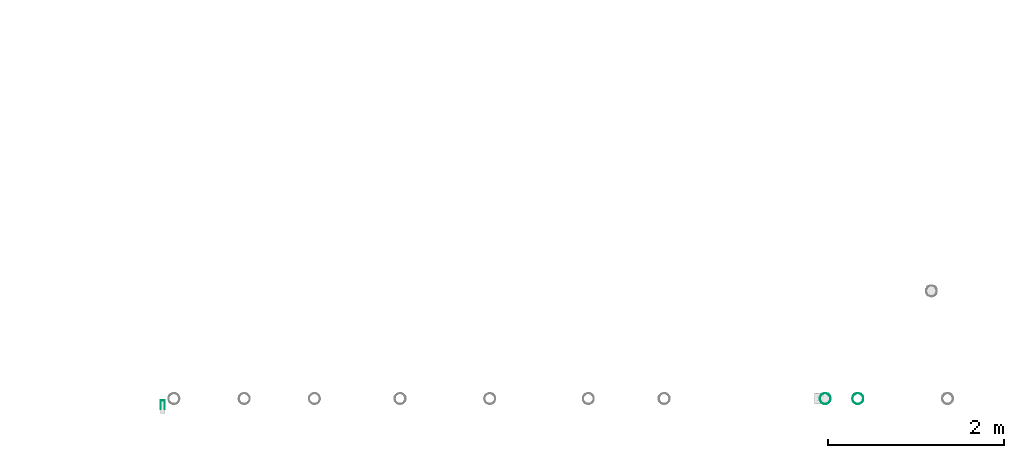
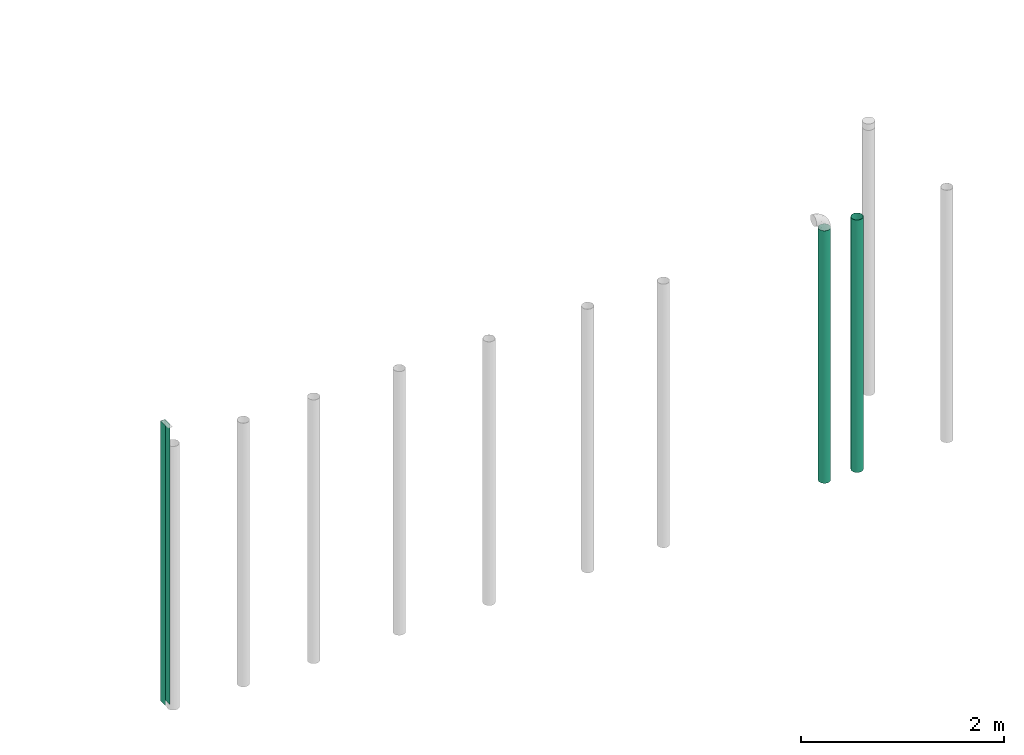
# One storey, part 5 of 7: 3 flow segments.
"""IFC2X3 building model written with IfcOpenShell, lengths in millimetres."""

from ifc_helpers import new_model, entity, si_unit, converted_unit, derived_unit, direction, frame, place, context, subcontext, project, spatial, faceted_brep, type_object, element, save


model = new_model("IFC2X3")

# Units and contexts
model_context = context("Model", 3, precision=0.01, world=frame((0.0, 4.29681676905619e-09, 0.0)), true_north=direction((4.01073788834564e-13, 1.0)))
plan_context = context("Plan", 3, precision=0.01, world=frame((0.0, 4.29681676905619e-09, 0.0)), true_north=direction((4.01073788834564e-13, 1.0)))
body_context = subcontext(model_context, "Body", "Model", "MODEL_VIEW")
ifc_project = project(units=[converted_unit("PLANEANGLEUNIT", "DEGREE", entity("IfcPositiveLengthMeasure", 0.0174532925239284), si_unit("PLANEANGLEUNIT", "RADIAN"), dimensions=[0, 0, 0, 0, 0, 0, 0]), si_unit("AREAUNIT", "SQUARE_METRE"), si_unit("LENGTHUNIT", "METRE", prefix="MILLI"), si_unit("MASSUNIT", "GRAM", prefix="KILO"), si_unit("POWERUNIT", "WATT"), si_unit("PRESSUREUNIT", "PASCAL"), si_unit("FORCEUNIT", "NEWTON", prefix="KILO"), si_unit("ELECTRICVOLTAGEUNIT", "VOLT"), si_unit("ELECTRICCURRENTUNIT", "AMPERE"), si_unit("THERMODYNAMICTEMPERATUREUNIT", "DEGREE_CELSIUS"), si_unit("TIMEUNIT", "SECOND"), si_unit("VOLUMEUNIT", "CUBIC_METRE"), derived_unit("LINEARVELOCITYUNIT", [(si_unit("LENGTHUNIT", "METRE"), 1), (si_unit("TIMEUNIT", "SECOND"), -1)]), derived_unit("VOLUMETRICFLOWRATEUNIT", [(si_unit("VOLUMEUNIT", "CUBIC_METRE"), 1), (si_unit("TIMEUNIT", "SECOND"), -1)]), derived_unit("THERMALTRANSMITTANCEUNIT", [(si_unit("POWERUNIT", "WATT"), 1), (si_unit("THERMODYNAMICTEMPERATUREUNIT", "KELVIN"), -1), (si_unit("AREAUNIT", "SQUARE_METRE"), -1)]), derived_unit("SOUNDPRESSUREUNIT", [(si_unit("PRESSUREUNIT", "PASCAL"), 1)])], contexts=[model_context, plan_context])

# Site, building, storey
site_placement = place(None, frame((0.0, -4.29681676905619e-09, 0.0), z_axis=(0.0, 0.0, 1.0), x_axis=(1.0, 0.0, 0.0)))
site = spatial("IfcSite", under=ifc_project, at=site_placement, CompositionType="ELEMENT")
building_placement = place(site_placement, frame((0.0, 4.29681676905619e-09, 0.0), z_axis=(0.0, 0.0, 1.0), x_axis=(1.0, 0.0, 0.0)))
building = spatial("IfcBuilding", under=site, at=building_placement, Name="mc-building", CompositionType="ELEMENT")
storey_placement = place(building_placement, frame((0.0, 0.0, 207370.0), z_axis=(0.0, 0.0, 1.0), x_axis=(1.0, 0.0, 0.0)))
storey = spatial("IfcBuildingStorey", under=building, at=storey_placement, Name="Nivå E", CompositionType="ELEMENT", Elevation=207370.0)

# Flow segments
duct_segment_type_1 = type_object("IfcDuctSegmentType", Name="Sirkulær kanal", PredefinedType="RIGIDSEGMENT")
flow_segment_1_placement = place(storey_placement, frame((530036.70917, 440892.96265, 1675.0), z_axis=(0.0, -1.0, 0.0), x_axis=(0.0, 0.0, 1.0)))
element("IfcFlowSegment", 1, at=flow_segment_1_placement, inside=storey, type_object=duct_segment_type_1, Name="Sirkulær kanal", context=body_context, shape_type="Brep", body=[
    faceted_brep([(855.0, 59.5808690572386, -10.5057147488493), (855.0, 60.5, 0.0), (3893.0, 60.5, 0.0), (3893.0, 59.5808690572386, -10.5057147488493), (855.0, 56.8514035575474, -20.692218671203), (3893.0, 56.8514035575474, -20.692218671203), (855.0, 52.3945369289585, -30.25), (3893.0, 52.3945369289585, -30.25), (855.0, 46.3456888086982, -38.8886503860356), (3893.0, 46.3456888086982, -38.8886503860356), (855.0, 38.8886503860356, -46.3456888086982), (3893.0, 38.8886503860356, -46.3456888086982), (855.0, 30.25, -52.3945369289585), (3893.0, 30.25, -52.3945369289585), (855.0, 20.6922186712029, -56.8514035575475), (3893.0, 20.6922186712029, -56.8514035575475), (855.0, 10.5057147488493, -59.5808690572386), (3893.0, 10.5057147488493, -59.5808690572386), (855.0, -1.11136697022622e-14, -60.5), (3893.0, -1.11136697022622e-14, -60.5), (855.0, -10.5057147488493, -59.5808690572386), (3893.0, -10.5057147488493, -59.5808690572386), (855.0, -20.692218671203, -56.8514035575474), (3893.0, -20.692218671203, -56.8514035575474), (855.0, -30.25, -52.3945369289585), (3893.0, -30.25, -52.3945369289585), (855.0, -38.8886503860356, -46.3456888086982), (3893.0, -38.8886503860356, -46.3456888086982), (855.0, -46.3456888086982, -38.8886503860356), (3893.0, -46.3456888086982, -38.8886503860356), (855.0, -52.3945369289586, -30.25), (3893.0, -52.3945369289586, -30.25), (855.0, -56.8514035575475, -20.692218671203), (3893.0, -56.8514035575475, -20.692218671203), (855.0, -59.5808690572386, -10.5057147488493), (3893.0, -59.5808690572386, -10.5057147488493), (855.0, -60.5, 7.40911313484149e-15), (3893.0, -60.5, 7.40911313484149e-15), (855.0, -59.5808690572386, 10.5057147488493), (3893.0, -59.5808690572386, 10.5057147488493), (855.0, -56.8514035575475, 20.692218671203), (3893.0, -56.8514035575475, 20.692218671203), (855.0, -52.3945369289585, 30.25), (3893.0, -52.3945369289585, 30.25), (855.0, -46.3456888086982, 38.8886503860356), (3893.0, -46.3456888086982, 38.8886503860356), (855.0, -38.8886503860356, 46.3456888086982), (3893.0, -38.8886503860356, 46.3456888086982), (855.0, -30.25, 52.3945369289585), (3893.0, -30.25, 52.3945369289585), (855.0, -20.692218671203, 56.8514035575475), (3893.0, -20.692218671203, 56.8514035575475), (855.0, -10.5057147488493, 59.5808690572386), (3893.0, -10.5057147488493, 59.5808690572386), (855.0, 3.70455656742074e-15, 60.5), (3893.0, 3.70455656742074e-15, 60.5), (855.0, 10.5057147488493, 59.5808690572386), (3893.0, 10.5057147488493, 59.5808690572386), (855.0, 20.692218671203, 56.8514035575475), (3893.0, 20.692218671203, 56.8514035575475), (855.0, 30.25, 52.3945369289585), (3893.0, 30.25, 52.3945369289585), (855.0, 38.8886503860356, 46.3456888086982), (3893.0, 38.8886503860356, 46.3456888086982), (855.0, 46.3456888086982, 38.8886503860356), (3893.0, 46.3456888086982, 38.8886503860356), (855.0, 52.3945369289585, 30.25), (3893.0, 52.3945369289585, 30.25), (855.0, 56.8514035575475, 20.692218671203), (3893.0, 56.8514035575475, 20.692218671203), (855.0, 59.5808690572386, 10.5057147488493), (3893.0, 59.5808690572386, 10.5057147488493), (855.0, 62.5, 0.0), (855.0, 61.550484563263, -10.8530111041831), (3893.0, 61.550484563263, -10.8530111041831), (3893.0, 62.5, 0.0), (855.0, 61.550484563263, 10.8530111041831), (3893.0, 61.550484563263, 10.8530111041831), (855.0, 58.7307887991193, 21.3762589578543), (3893.0, 58.7307887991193, 21.3762589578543), (855.0, 54.1265877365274, 31.25), (3893.0, 54.1265877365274, 31.25), (855.0, 47.8777776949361, 40.1742256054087), (3893.0, 47.8777776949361, 40.1742256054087), (855.0, 40.1742256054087, 47.8777776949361), (3893.0, 40.1742256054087, 47.8777776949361), (855.0, 31.25, 54.1265877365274), (3893.0, 31.25, 54.1265877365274), (855.0, 21.3762589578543, 58.7307887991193), (3893.0, 21.3762589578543, 58.7307887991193), (855.0, 10.8530111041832, 61.550484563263), (3893.0, 10.8530111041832, 61.550484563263), (855.0, 3.82702124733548e-15, 62.5), (3893.0, 3.82702124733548e-15, 62.5), (855.0, -10.8530111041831, 61.550484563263), (3893.0, -10.8530111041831, 61.550484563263), (855.0, -21.3762589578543, 58.7307887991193), (3893.0, -21.3762589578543, 58.7307887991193), (855.0, -31.25, 54.1265877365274), (3893.0, -31.25, 54.1265877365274), (855.0, -40.1742256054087, 47.8777776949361), (3893.0, -40.1742256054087, 47.8777776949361), (855.0, -47.8777776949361, 40.1742256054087), (3893.0, -47.8777776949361, 40.1742256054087), (855.0, -54.1265877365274, 31.25), (3893.0, -54.1265877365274, 31.25), (855.0, -58.7307887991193, 21.3762589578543), (3893.0, -58.7307887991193, 21.3762589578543), (855.0, -61.550484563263, 10.8530111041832), (3893.0, -61.550484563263, 10.8530111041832), (855.0, -62.5, 7.65404249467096e-15), (3893.0, -62.5, 7.65404249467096e-15), (855.0, -61.550484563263, -10.8530111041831), (3893.0, -61.550484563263, -10.8530111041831), (855.0, -58.7307887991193, -21.3762589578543), (3893.0, -58.7307887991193, -21.3762589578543), (855.0, -54.1265877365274, -31.25), (3893.0, -54.1265877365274, -31.25), (855.0, -47.8777776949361, -40.1742256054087), (3893.0, -47.8777776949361, -40.1742256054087), (855.0, -40.1742256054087, -47.8777776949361), (3893.0, -40.1742256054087, -47.8777776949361), (855.0, -31.25, -54.1265877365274), (3893.0, -31.25, -54.1265877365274), (855.0, -21.3762589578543, -58.7307887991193), (3893.0, -21.3762589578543, -58.7307887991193), (855.0, -10.8530111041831, -61.550484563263), (3893.0, -10.8530111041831, -61.550484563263), (855.0, -1.14810637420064e-14, -62.5), (3893.0, -1.14810637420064e-14, -62.5), (855.0, 10.8530111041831, -61.550484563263), (3893.0, 10.8530111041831, -61.550484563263), (855.0, 21.3762589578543, -58.7307887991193), (3893.0, 21.3762589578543, -58.7307887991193), (855.0, 31.25, -54.1265877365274), (3893.0, 31.25, -54.1265877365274), (855.0, 40.1742256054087, -47.8777776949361), (3893.0, 40.1742256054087, -47.8777776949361), (855.0, 47.8777776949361, -40.1742256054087), (3893.0, 47.8777776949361, -40.1742256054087), (855.0, 54.1265877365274, -31.25), (3893.0, 54.1265877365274, -31.25), (855.0, 58.7307887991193, -21.3762589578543), (3893.0, 58.7307887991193, -21.3762589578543)], [[[0, 1, 2, 3]], [[4, 0, 3, 5]], [[6, 4, 5, 7]], [[8, 6, 7, 9]], [[10, 8, 9, 11]], [[12, 10, 11, 13]], [[14, 12, 13, 15]], [[16, 14, 15, 17]], [[18, 16, 17, 19]], [[20, 18, 19, 21]], [[22, 20, 21, 23]], [[24, 22, 23, 25]], [[26, 24, 25, 27]], [[28, 26, 27, 29]], [[30, 28, 29, 31]], [[32, 30, 31, 33]], [[34, 32, 33, 35]], [[36, 34, 35, 37]], [[38, 36, 37, 39]], [[40, 38, 39, 41]], [[42, 40, 41, 43]], [[44, 42, 43, 45]], [[46, 44, 45, 47]], [[48, 46, 47, 49]], [[50, 48, 49, 51]], [[52, 50, 51, 53]], [[54, 52, 53, 55]], [[56, 54, 55, 57]], [[58, 56, 57, 59]], [[60, 58, 59, 61]], [[62, 60, 61, 63]], [[64, 62, 63, 65]], [[66, 64, 65, 67]], [[68, 66, 67, 69]], [[70, 68, 69, 71]], [[1, 70, 71, 2]], [[72, 73, 74, 75]], [[76, 72, 75, 77]], [[78, 76, 77, 79]], [[80, 78, 79, 81]], [[82, 80, 81, 83]], [[84, 82, 83, 85]], [[86, 84, 85, 87]], [[88, 86, 87, 89]], [[90, 88, 89, 91]], [[92, 90, 91, 93]], [[94, 92, 93, 95]], [[96, 94, 95, 97]], [[98, 96, 97, 99]], [[100, 98, 99, 101]], [[102, 100, 101, 103]], [[104, 102, 103, 105]], [[106, 104, 105, 107]], [[108, 106, 107, 109]], [[110, 108, 109, 111]], [[112, 110, 111, 113]], [[114, 112, 113, 115]], [[116, 114, 115, 117]], [[118, 116, 117, 119]], [[120, 118, 119, 121]], [[122, 120, 121, 123]], [[124, 122, 123, 125]], [[126, 124, 125, 127]], [[128, 126, 127, 129]], [[130, 128, 129, 131]], [[132, 130, 131, 133]], [[134, 132, 133, 135]], [[136, 134, 135, 137]], [[138, 136, 137, 139]], [[140, 138, 139, 141]], [[142, 140, 141, 143]], [[73, 142, 143, 74]], [[75, 74, 143, 141, 139, 137, 135, 133, 131, 129, 127, 125, 123, 121, 119, 117, 115, 113, 111, 109, 107, 105, 103, 101, 99, 97, 95, 93, 91, 89, 87, 85, 83, 81, 79, 77], [2, 71, 69, 67, 65, 63, 61, 59, 57, 55, 53, 51, 49, 47, 45, 43, 41, 39, 37, 35, 33, 31, 29, 27, 25, 23, 21, 19, 17, 15, 13, 11, 9, 7, 5, 3]], [[76, 78, 80, 82, 84, 86, 88, 90, 92, 94, 96, 98, 100, 102, 104, 106, 108, 110, 112, 114, 116, 118, 120, 122, 124, 126, 128, 130, 132, 134, 136, 138, 140, 142, 73, 72], [4, 6, 8, 10, 12, 14, 16, 18, 20, 22, 24, 26, 28, 30, 32, 34, 36, 38, 40, 42, 44, 46, 48, 50, 52, 54, 56, 58, 60, 62, 64, 66, 68, 70, 1, 0]]], orient=[[False], [False], [False], [False], [False], [False], [False], [False], [False], [False], [False], [False], [False], [False], [False], [False], [False], [False], [False], [False], [False], [False], [False], [False], [False], [False], [False], [False], [False], [False], [False], [False], [False], [False], [False], [False], [False], [False], [False], [False], [False], [False], [False], [False], [False], [False], [False], [False], [False], [False], [False], [False], [False], [False], [False], [False], [False], [False], [False], [False], [False], [False], [False], [False], [False], [False], [False], [False], [False], [False], [False], [False], [False, False], [False, False]]),
])
flow_segment_2_placement = place(storey_placement, frame((530408.70917, 440892.96265, 1675.0), z_axis=(0.0, -1.0, 0.0), x_axis=(0.0, 0.0, 1.0)))
element("IfcFlowSegment", 2, at=flow_segment_2_placement, inside=storey, type_object=duct_segment_type_1, Name="Sirkulær kanal", context=body_context, shape_type="Brep", body=[
    faceted_brep([(855.0, 59.5808690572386, -10.5057147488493), (855.0, 60.5, 0.0), (3893.0, 60.5, 0.0), (3893.0, 59.5808690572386, -10.5057147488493), (855.0, 56.8514035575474, -20.692218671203), (3893.0, 56.8514035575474, -20.692218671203), (855.0, 52.3945369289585, -30.25), (3893.0, 52.3945369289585, -30.25), (855.0, 46.3456888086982, -38.8886503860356), (3893.0, 46.3456888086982, -38.8886503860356), (855.0, 38.8886503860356, -46.3456888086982), (3893.0, 38.8886503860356, -46.3456888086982), (855.0, 30.25, -52.3945369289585), (3893.0, 30.25, -52.3945369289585), (855.0, 20.6922186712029, -56.8514035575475), (3893.0, 20.6922186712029, -56.8514035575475), (855.0, 10.5057147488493, -59.5808690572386), (3893.0, 10.5057147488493, -59.5808690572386), (855.0, -1.11136697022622e-14, -60.5), (3893.0, -1.11136697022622e-14, -60.5), (855.0, -10.5057147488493, -59.5808690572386), (3893.0, -10.5057147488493, -59.5808690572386), (855.0, -20.692218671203, -56.8514035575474), (3893.0, -20.692218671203, -56.8514035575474), (855.0, -30.25, -52.3945369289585), (3893.0, -30.25, -52.3945369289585), (855.0, -38.8886503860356, -46.3456888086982), (3893.0, -38.8886503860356, -46.3456888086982), (855.0, -46.3456888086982, -38.8886503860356), (3893.0, -46.3456888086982, -38.8886503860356), (855.0, -52.3945369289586, -30.25), (3893.0, -52.3945369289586, -30.25), (855.0, -56.8514035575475, -20.692218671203), (3893.0, -56.8514035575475, -20.692218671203), (855.0, -59.5808690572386, -10.5057147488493), (3893.0, -59.5808690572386, -10.5057147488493), (855.0, -60.5, 7.40911313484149e-15), (3893.0, -60.5, 7.40911313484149e-15), (855.0, -59.5808690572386, 10.5057147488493), (3893.0, -59.5808690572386, 10.5057147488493), (855.0, -56.8514035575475, 20.692218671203), (3893.0, -56.8514035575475, 20.692218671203), (855.0, -52.3945369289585, 30.25), (3893.0, -52.3945369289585, 30.25), (855.0, -46.3456888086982, 38.8886503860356), (3893.0, -46.3456888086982, 38.8886503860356), (855.0, -38.8886503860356, 46.3456888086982), (3893.0, -38.8886503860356, 46.3456888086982), (855.0, -30.25, 52.3945369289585), (3893.0, -30.25, 52.3945369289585), (855.0, -20.692218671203, 56.8514035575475), (3893.0, -20.692218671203, 56.8514035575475), (855.0, -10.5057147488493, 59.5808690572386), (3893.0, -10.5057147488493, 59.5808690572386), (855.0, 3.70455656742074e-15, 60.5), (3893.0, 3.70455656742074e-15, 60.5), (855.0, 10.5057147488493, 59.5808690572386), (3893.0, 10.5057147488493, 59.5808690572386), (855.0, 20.692218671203, 56.8514035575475), (3893.0, 20.692218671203, 56.8514035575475), (855.0, 30.25, 52.3945369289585), (3893.0, 30.25, 52.3945369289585), (855.0, 38.8886503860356, 46.3456888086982), (3893.0, 38.8886503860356, 46.3456888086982), (855.0, 46.3456888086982, 38.8886503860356), (3893.0, 46.3456888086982, 38.8886503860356), (855.0, 52.3945369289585, 30.25), (3893.0, 52.3945369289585, 30.25), (855.0, 56.8514035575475, 20.692218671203), (3893.0, 56.8514035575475, 20.692218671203), (855.0, 59.5808690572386, 10.5057147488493), (3893.0, 59.5808690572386, 10.5057147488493), (855.0, 62.5, 0.0), (855.0, 61.550484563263, -10.8530111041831), (3893.0, 61.550484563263, -10.8530111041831), (3893.0, 62.5, 0.0), (855.0, 61.550484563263, 10.8530111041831), (3893.0, 61.550484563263, 10.8530111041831), (855.0, 58.7307887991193, 21.3762589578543), (3893.0, 58.7307887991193, 21.3762589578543), (855.0, 54.1265877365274, 31.25), (3893.0, 54.1265877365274, 31.25), (855.0, 47.8777776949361, 40.1742256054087), (3893.0, 47.8777776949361, 40.1742256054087), (855.0, 40.1742256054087, 47.8777776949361), (3893.0, 40.1742256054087, 47.8777776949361), (855.0, 31.25, 54.1265877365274), (3893.0, 31.25, 54.1265877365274), (855.0, 21.3762589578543, 58.7307887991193), (3893.0, 21.3762589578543, 58.7307887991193), (855.0, 10.8530111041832, 61.550484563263), (3893.0, 10.8530111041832, 61.550484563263), (855.0, 3.82702124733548e-15, 62.5), (3893.0, 3.82702124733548e-15, 62.5), (855.0, -10.8530111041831, 61.550484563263), (3893.0, -10.8530111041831, 61.550484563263), (855.0, -21.3762589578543, 58.7307887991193), (3893.0, -21.3762589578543, 58.7307887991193), (855.0, -31.25, 54.1265877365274), (3893.0, -31.25, 54.1265877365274), (855.0, -40.1742256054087, 47.8777776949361), (3893.0, -40.1742256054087, 47.8777776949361), (855.0, -47.8777776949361, 40.1742256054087), (3893.0, -47.8777776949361, 40.1742256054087), (855.0, -54.1265877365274, 31.25), (3893.0, -54.1265877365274, 31.25), (855.0, -58.7307887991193, 21.3762589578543), (3893.0, -58.7307887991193, 21.3762589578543), (855.0, -61.550484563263, 10.8530111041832), (3893.0, -61.550484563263, 10.8530111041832), (855.0, -62.5, 7.65404249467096e-15), (3893.0, -62.5, 7.65404249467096e-15), (855.0, -61.550484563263, -10.8530111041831), (3893.0, -61.550484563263, -10.8530111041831), (855.0, -58.7307887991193, -21.3762589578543), (3893.0, -58.7307887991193, -21.3762589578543), (855.0, -54.1265877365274, -31.25), (3893.0, -54.1265877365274, -31.25), (855.0, -47.8777776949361, -40.1742256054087), (3893.0, -47.8777776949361, -40.1742256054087), (855.0, -40.1742256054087, -47.8777776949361), (3893.0, -40.1742256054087, -47.8777776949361), (855.0, -31.25, -54.1265877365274), (3893.0, -31.25, -54.1265877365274), (855.0, -21.3762589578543, -58.7307887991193), (3893.0, -21.3762589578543, -58.7307887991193), (855.0, -10.8530111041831, -61.550484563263), (3893.0, -10.8530111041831, -61.550484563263), (855.0, -1.14810637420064e-14, -62.5), (3893.0, -1.14810637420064e-14, -62.5), (855.0, 10.8530111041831, -61.550484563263), (3893.0, 10.8530111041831, -61.550484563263), (855.0, 21.3762589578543, -58.7307887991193), (3893.0, 21.3762589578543, -58.7307887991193), (855.0, 31.25, -54.1265877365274), (3893.0, 31.25, -54.1265877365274), (855.0, 40.1742256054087, -47.8777776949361), (3893.0, 40.1742256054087, -47.8777776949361), (855.0, 47.8777776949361, -40.1742256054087), (3893.0, 47.8777776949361, -40.1742256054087), (855.0, 54.1265877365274, -31.25), (3893.0, 54.1265877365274, -31.25), (855.0, 58.7307887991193, -21.3762589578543), (3893.0, 58.7307887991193, -21.3762589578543)], [[[0, 1, 2, 3]], [[4, 0, 3, 5]], [[6, 4, 5, 7]], [[8, 6, 7, 9]], [[10, 8, 9, 11]], [[12, 10, 11, 13]], [[14, 12, 13, 15]], [[16, 14, 15, 17]], [[18, 16, 17, 19]], [[20, 18, 19, 21]], [[22, 20, 21, 23]], [[24, 22, 23, 25]], [[26, 24, 25, 27]], [[28, 26, 27, 29]], [[30, 28, 29, 31]], [[32, 30, 31, 33]], [[34, 32, 33, 35]], [[36, 34, 35, 37]], [[38, 36, 37, 39]], [[40, 38, 39, 41]], [[42, 40, 41, 43]], [[44, 42, 43, 45]], [[46, 44, 45, 47]], [[48, 46, 47, 49]], [[50, 48, 49, 51]], [[52, 50, 51, 53]], [[54, 52, 53, 55]], [[56, 54, 55, 57]], [[58, 56, 57, 59]], [[60, 58, 59, 61]], [[62, 60, 61, 63]], [[64, 62, 63, 65]], [[66, 64, 65, 67]], [[68, 66, 67, 69]], [[70, 68, 69, 71]], [[1, 70, 71, 2]], [[72, 73, 74, 75]], [[76, 72, 75, 77]], [[78, 76, 77, 79]], [[80, 78, 79, 81]], [[82, 80, 81, 83]], [[84, 82, 83, 85]], [[86, 84, 85, 87]], [[88, 86, 87, 89]], [[90, 88, 89, 91]], [[92, 90, 91, 93]], [[94, 92, 93, 95]], [[96, 94, 95, 97]], [[98, 96, 97, 99]], [[100, 98, 99, 101]], [[102, 100, 101, 103]], [[104, 102, 103, 105]], [[106, 104, 105, 107]], [[108, 106, 107, 109]], [[110, 108, 109, 111]], [[112, 110, 111, 113]], [[114, 112, 113, 115]], [[116, 114, 115, 117]], [[118, 116, 117, 119]], [[120, 118, 119, 121]], [[122, 120, 121, 123]], [[124, 122, 123, 125]], [[126, 124, 125, 127]], [[128, 126, 127, 129]], [[130, 128, 129, 131]], [[132, 130, 131, 133]], [[134, 132, 133, 135]], [[136, 134, 135, 137]], [[138, 136, 137, 139]], [[140, 138, 139, 141]], [[142, 140, 141, 143]], [[73, 142, 143, 74]], [[75, 74, 143, 141, 139, 137, 135, 133, 131, 129, 127, 125, 123, 121, 119, 117, 115, 113, 111, 109, 107, 105, 103, 101, 99, 97, 95, 93, 91, 89, 87, 85, 83, 81, 79, 77], [2, 71, 69, 67, 65, 63, 61, 59, 57, 55, 53, 51, 49, 47, 45, 43, 41, 39, 37, 35, 33, 31, 29, 27, 25, 23, 21, 19, 17, 15, 13, 11, 9, 7, 5, 3]], [[76, 78, 80, 82, 84, 86, 88, 90, 92, 94, 96, 98, 100, 102, 104, 106, 108, 110, 112, 114, 116, 118, 120, 122, 124, 126, 128, 130, 132, 134, 136, 138, 140, 142, 73, 72], [4, 6, 8, 10, 12, 14, 16, 18, 20, 22, 24, 26, 28, 30, 32, 34, 36, 38, 40, 42, 44, 46, 48, 50, 52, 54, 56, 58, 60, 62, 64, 66, 68, 70, 1, 0]]], orient=[[False], [False], [False], [False], [False], [False], [False], [False], [False], [False], [False], [False], [False], [False], [False], [False], [False], [False], [False], [False], [False], [False], [False], [False], [False], [False], [False], [False], [False], [False], [False], [False], [False], [False], [False], [False], [False], [False], [False], [False], [False], [False], [False], [False], [False], [False], [False], [False], [False], [False], [False], [False], [False], [False], [False], [False], [False], [False], [False], [False], [False], [False], [False], [False], [False], [False], [False], [False], [False], [False], [False], [False], [False, False], [False, False]]),
])
duct_segment_type_2 = type_object("IfcDuctSegmentType", Name="KK002T - Rektangulære, Forsinket stål", PredefinedType="RIGIDSEGMENT")
flow_segment_3_placement = place(storey_placement, frame((522494.26875, 440797.96265, 2396.5), z_axis=(1.0, 0.0, 0.0), x_axis=(0.0, 0.0, 1.0)))
element("IfcFlowSegment", 3, at=flow_segment_3_placement, inside=storey, type_object=duct_segment_type_2, Name="KK002T - Rektangulære, Forsinket stål", context=body_context, shape_type="Brep", body=[
    faceted_brep([(133.5, -73.0, -23.0), (133.5, 22.9626500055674, -22.9999999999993), (3503.5, 22.9626500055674, -23.0), (3503.5, -73.0, -23.0), (133.5, -73.0, 23.0), (3503.5, -73.0, 23.0), (3503.5, 22.9626500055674, 23.0), (133.5, 22.9626500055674, 23.0000000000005), (3503.5, 22.9626500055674, -25.0), (133.5, 22.9626500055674, -24.9999999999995), (133.5, -75.0, -25.0), (3503.5, -75.0, -25.0), (133.5, -75.0, 25.0), (133.5, 22.9626500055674, 25.0000000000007), (3503.5, 22.9626500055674, 25.0), (3503.5, -75.0, 25.0)], [[[0, 1, 2, 3]], [[4, 0, 3, 5]], [[6, 7, 4, 5]], [[8, 9, 10, 11]], [[12, 13, 14, 15]], [[10, 12, 15, 11]], [[14, 6, 5, 3, 2, 8, 11, 15]], [[9, 8, 2, 1]], [[7, 6, 14, 13]], [[13, 12, 10, 9, 1, 0, 4, 7]]], orient=[[False], [False], [False], [False], [False], [False], [False], [False], [False], [False]]),
])

save(model, "model.ifc")
